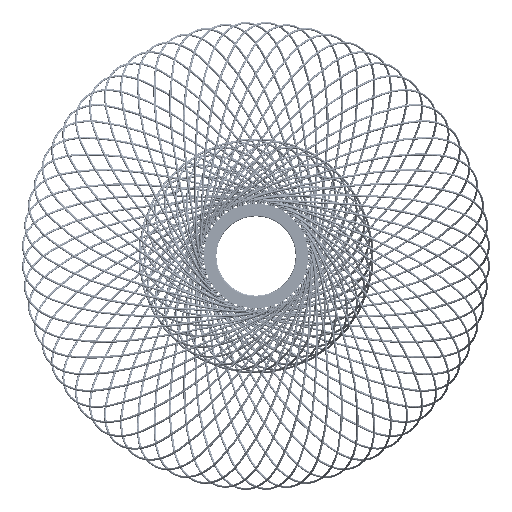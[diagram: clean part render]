
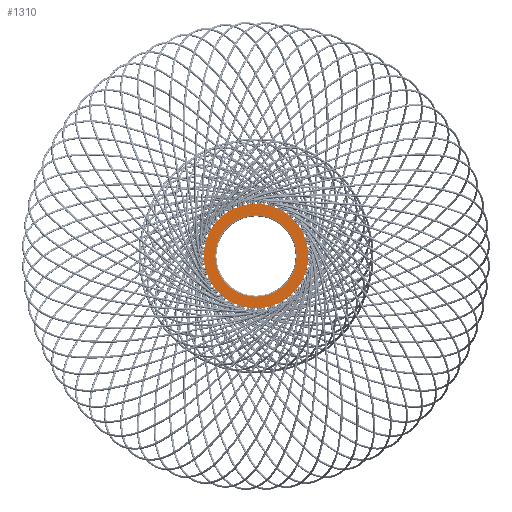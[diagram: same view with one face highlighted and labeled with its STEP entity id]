
A CAD part, front view. The second image highlights one B-rep face of the part: STEP entity #1310.
In plain terms, the highlighted planar face has unit normal (0, -1, 0).
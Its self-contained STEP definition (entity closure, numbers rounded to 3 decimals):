
#7 = EDGE_CURVE ( 'NONE', #2067, #2066, #3853, .T. ) ;
#583 = EDGE_LOOP ( 'NONE', ( #2724, #2725 ) ) ;
#585 = EDGE_LOOP ( 'NONE', ( #2726, #2727 ) ) ;
#1310 = ADVANCED_FACE ( 'NONE', ( #7103, #7112 ), #7383, .T. ) ;
#1373 = EDGE_CURVE ( 'NONE', #2066, #2067, #7183, .T. ) ;
#1375 = EDGE_CURVE ( 'NONE', #2897, #2898, #7185, .T. ) ;
#2066 = VERTEX_POINT ( 'NONE', #10482 ) ;
#2067 = VERTEX_POINT ( 'NONE', #10484 ) ;
#2724 = ORIENTED_EDGE ( 'NONE', *, *, #10514, .T. ) ;
#2725 = ORIENTED_EDGE ( 'NONE', *, *, #1375, .T. ) ;
#2726 = ORIENTED_EDGE ( 'NONE', *, *, #1373, .F. ) ;
#2727 = ORIENTED_EDGE ( 'NONE', *, *, #7, .F. ) ;
#2897 = VERTEX_POINT ( 'NONE', #11671 ) ;
#2898 = VERTEX_POINT ( 'NONE', #11668 ) ;
#3008 = CARTESIAN_POINT ( 'NONE',  ( 0., 0., 0. ) ) ;
#3009 = DIRECTION ( 'NONE',  ( 0., 1., 0. ) ) ;
#3010 = DIRECTION ( 'NONE',  ( 0., 0., 1. ) ) ;
#3650 = AXIS2_PLACEMENT_3D ( 'NONE', #3008, #3009, #3010 ) ;
#3853 = CIRCLE ( 'NONE', #3650, 101. ) ;
#6951 = AXIS2_PLACEMENT_3D ( 'NONE', #7382, #7384, #7385 ) ;
#6975 = AXIS2_PLACEMENT_3D ( 'NONE', #7903, #7905, #7906 ) ;
#6982 = AXIS2_PLACEMENT_3D ( 'NONE', #7901, #7909, #7910 ) ;
#7103 = FACE_BOUND ( 'NONE', #583, .T. ) ;
#7112 = FACE_OUTER_BOUND ( 'NONE', #585, .T. ) ;
#7183 = CIRCLE ( 'NONE', #6975, 101. ) ;
#7185 = CIRCLE ( 'NONE', #6982, 78.5 ) ;
#7382 = CARTESIAN_POINT ( 'NONE',  ( 78.5, 0., 0. ) ) ;
#7383 = PLANE ( 'NONE',  #6951 ) ;
#7384 = DIRECTION ( 'NONE',  ( 0., -1., 0. ) ) ;
#7385 = DIRECTION ( 'NONE',  ( 0., 0., -1. ) ) ;
#7901 = CARTESIAN_POINT ( 'NONE',  ( 0., 0., 0. ) ) ;
#7903 = CARTESIAN_POINT ( 'NONE',  ( 0., 0., 0. ) ) ;
#7905 = DIRECTION ( 'NONE',  ( 0., 1., 0. ) ) ;
#7906 = DIRECTION ( 'NONE',  ( 0., 0., 1. ) ) ;
#7909 = DIRECTION ( 'NONE',  ( 0., 1., 0. ) ) ;
#7910 = DIRECTION ( 'NONE',  ( 0., 0., 1. ) ) ;
#10482 = CARTESIAN_POINT ( 'NONE',  ( 0., 0., 101. ) ) ;
#10484 = CARTESIAN_POINT ( 'NONE',  ( 0., 0., -101. ) ) ;
#10514 = EDGE_CURVE ( 'NONE', #2898, #2897, #13048, .T. ) ;
#11668 = CARTESIAN_POINT ( 'NONE',  ( 0., 0., 78.5 ) ) ;
#11671 = CARTESIAN_POINT ( 'NONE',  ( 0., 0., -78.5 ) ) ;
#13048 = CIRCLE ( 'NONE', #13112, 78.5 ) ;
#13112 = AXIS2_PLACEMENT_3D ( 'NONE', #14031, #14033, #14034 ) ;
#14031 = CARTESIAN_POINT ( 'NONE',  ( 0., 0., 0. ) ) ;
#14033 = DIRECTION ( 'NONE',  ( 0., 1., 0. ) ) ;
#14034 = DIRECTION ( 'NONE',  ( 0., 0., 1. ) ) ;
